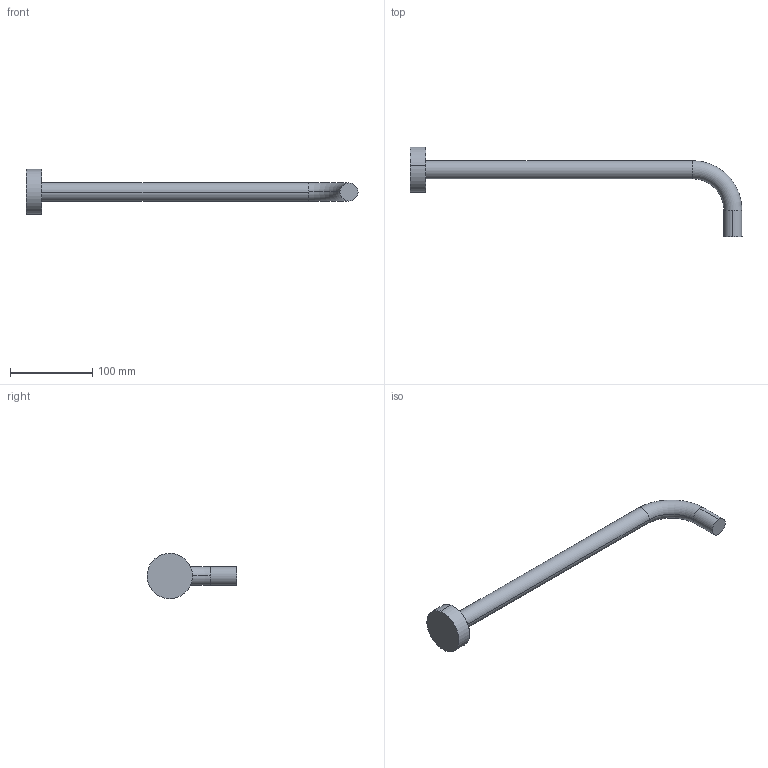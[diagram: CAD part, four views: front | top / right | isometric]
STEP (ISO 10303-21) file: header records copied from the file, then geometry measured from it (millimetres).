
FILE_DESCRIPTION((''),'2;1');
FILE_NAME('IS_IDEALRAIN_B9445_3DPL_NN','2021-11-11T12:31:59',('VelchevV'),('AMERICAN STANDARD B&K'),'CREO PARAMETRIC BY PTC INC, 2020281','CREO PARAMETRIC BY PTC INC, 2020281','');
FILE_SCHEMA(('AP242_MANAGED_MODEL_BASED_3D_ENGINEERING_MIM_LF { 1 0 10303 442 1 1 4 }'));
Length unit declared in the file: millimetre
Products named in the file (1): IS_IDEALRAIN_B9445_3DPL_NN
Bounding box: 403 x 109 x 54.99 mm (x, y, z)
Volume: 209907.6 mm3; surface area: 37956.5 mm2
Topology: 1 solids, 1 shells, 13 faces, 26 edges, 16 vertices
Faces by surface type: cylinder 6, torus 4, plane 3
Entity records: 393 total; most frequent: DIRECTION 72, CARTESIAN_POINT 57, ORIENTED_EDGE 52, AXIS2_PLACEMENT_3D 33, EDGE_CURVE 26, CIRCLE 20, VERTEX_POINT 16, EDGE_LOOP 14
